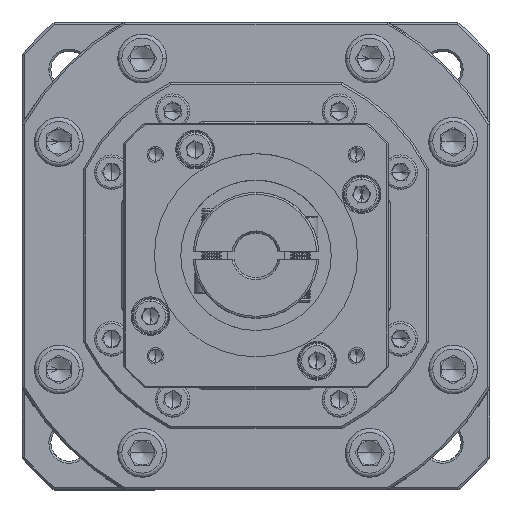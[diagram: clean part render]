
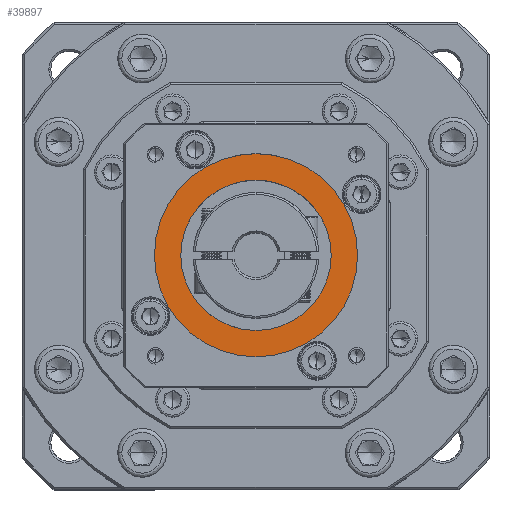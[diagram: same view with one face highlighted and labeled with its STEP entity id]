
A CAD part, top view. The second image highlights one B-rep face of the part: STEP entity #39897.
In plain terms, the highlighted planar face has unit normal (0, 0, 1).
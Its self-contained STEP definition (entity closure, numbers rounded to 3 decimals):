
#1044 = AXIS2_PLACEMENT_3D ( 'NONE', #33591, #77451, #109759 ) ;
#5713 = CARTESIAN_POINT ( 'NONE',  ( 37.981, 82.491, -17.955 ) ) ;
#6077 = DIRECTION ( 'NONE',  ( 0., 1., 0. ) ) ;
#12709 = EDGE_CURVE ( 'NONE', #32479, #130855, #86189, .T. ) ;
#16190 = AXIS2_PLACEMENT_3D ( 'NONE', #134136, #101065, #57930 ) ;
#20998 = AXIS2_PLACEMENT_3D ( 'NONE', #135801, #92690, #6077 ) ;
#22582 = ORIENTED_EDGE ( 'NONE', *, *, #12709, .T. ) ;
#22906 = EDGE_LOOP ( 'NONE', ( #66679, #22582 ) ) ;
#23043 = AXIS2_PLACEMENT_3D ( 'NONE', #106360, #116769, #41482 ) ;
#24674 = CIRCLE ( 'NONE', #35979, 18.5 ) ;
#24997 = EDGE_LOOP ( 'NONE', ( #29248, #39866 ) ) ;
#29248 = ORIENTED_EDGE ( 'NONE', *, *, #95797, .T. ) ;
#29731 = CARTESIAN_POINT ( 'NONE',  ( 37.981, 107.491, -17.955 ) ) ;
#32479 = VERTEX_POINT ( 'NONE', #5713 ) ;
#33591 = CARTESIAN_POINT ( 'NONE',  ( 37.981, 107.491, -17.955 ) ) ;
#35979 = AXIS2_PLACEMENT_3D ( 'NONE', #29731, #104993, #94981 ) ;
#39866 = ORIENTED_EDGE ( 'NONE', *, *, #97009, .T. ) ;
#39897 = ADVANCED_FACE ( 'NONE', ( #68392, #70161 ), #68781, .T. ) ;
#41482 = DIRECTION ( 'NONE',  ( 0., 1., 0. ) ) ;
#44501 = CARTESIAN_POINT ( 'NONE',  ( 37.981, 88.991, -17.955 ) ) ;
#55885 = CIRCLE ( 'NONE', #23043, 18.5 ) ;
#57930 = DIRECTION ( 'NONE',  ( 0., 1., 0. ) ) ;
#64881 = VERTEX_POINT ( 'NONE', #44501 ) ;
#66679 = ORIENTED_EDGE ( 'NONE', *, *, #88207, .T. ) ;
#68392 = FACE_OUTER_BOUND ( 'NONE', #22906, .T. ) ;
#68781 = PLANE ( 'NONE',  #16190 ) ;
#70161 = FACE_BOUND ( 'NONE', #24997, .T. ) ;
#74052 = VERTEX_POINT ( 'NONE', #84357 ) ;
#77451 = DIRECTION ( 'NONE',  ( 0., 0., 1. ) ) ;
#80441 = CARTESIAN_POINT ( 'NONE',  ( 37.981, 132.491, -17.955 ) ) ;
#84357 = CARTESIAN_POINT ( 'NONE',  ( 37.981, 125.991, -17.955 ) ) ;
#86189 = CIRCLE ( 'NONE', #20998, 25. ) ;
#88207 = EDGE_CURVE ( 'NONE', #130855, #32479, #103254, .T. ) ;
#92690 = DIRECTION ( 'NONE',  ( 0., 0., 1. ) ) ;
#94981 = DIRECTION ( 'NONE',  ( 0., 1., 0. ) ) ;
#95797 = EDGE_CURVE ( 'NONE', #74052, #64881, #55885, .T. ) ;
#97009 = EDGE_CURVE ( 'NONE', #64881, #74052, #24674, .T. ) ;
#101065 = DIRECTION ( 'NONE',  ( 0., 0., 1. ) ) ;
#103254 = CIRCLE ( 'NONE', #1044, 25. ) ;
#104993 = DIRECTION ( 'NONE',  ( 0., 0., -1. ) ) ;
#106360 = CARTESIAN_POINT ( 'NONE',  ( 37.981, 107.491, -17.955 ) ) ;
#109759 = DIRECTION ( 'NONE',  ( 0., 1., 0. ) ) ;
#116769 = DIRECTION ( 'NONE',  ( 0., 0., -1. ) ) ;
#130855 = VERTEX_POINT ( 'NONE', #80441 ) ;
#134136 = CARTESIAN_POINT ( 'NONE',  ( 37.981, 107.491, -17.955 ) ) ;
#135801 = CARTESIAN_POINT ( 'NONE',  ( 37.981, 107.491, -17.955 ) ) ;
